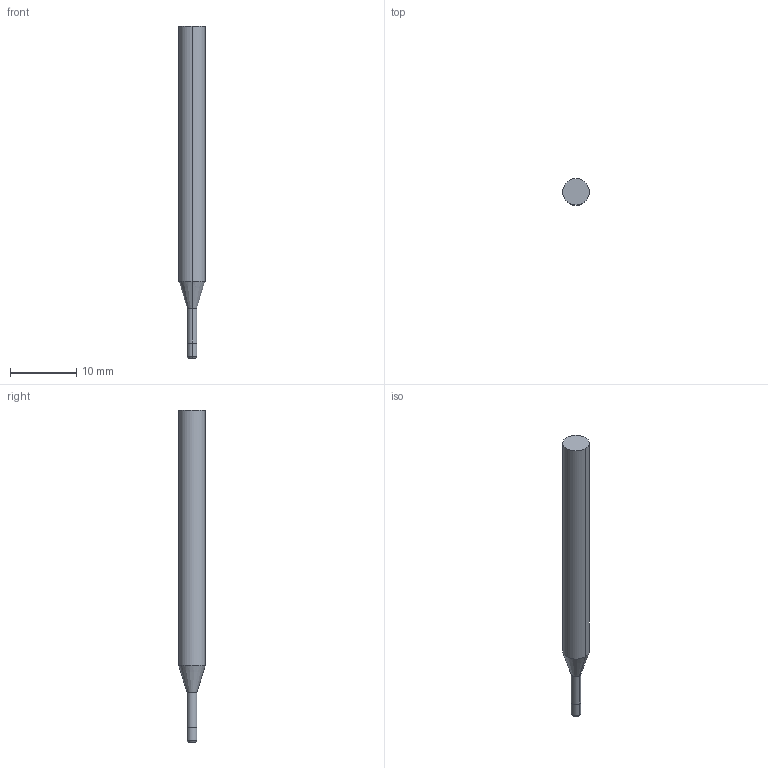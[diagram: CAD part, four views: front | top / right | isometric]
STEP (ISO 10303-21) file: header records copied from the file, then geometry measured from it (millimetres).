
FILE_DESCRIPTION((' '),'2;1');
FILE_NAME( '3MVSM0150R.20N5AH.stp', '2026-01-21T19:27:25', (' '), ('--- Datakit www.datakit.com---'), ' Datakit CrossCadWare V2025.4 Sep 19 2025', 'Mastercam 2027', ' ');
FILE_SCHEMA(('AUTOMOTIVE_DESIGN { 1 0 10303 214 1 1 1 1 }'));
Length unit declared in the file: inch
Products named in the file (1): 3MVSM0150R
Bounding box: 4 x 4 x 50 mm (x, y, z)
Volume: 522 mm3; surface area: 569 mm2
Topology: 1 solids, 1 shells, 12 faces, 22 edges, 12 vertices
Faces by surface type: cylinder 6, plane 2, torus 2, cone 2
Entity records: 377 total; most frequent: DIRECTION 70, CARTESIAN_POINT 51, ORIENTED_EDGE 44, AXIS2_PLACEMENT_3D 31, EDGE_CURVE 22, CIRCLE 14, VERTEX_POINT 12, EDGE_LOOP 12
